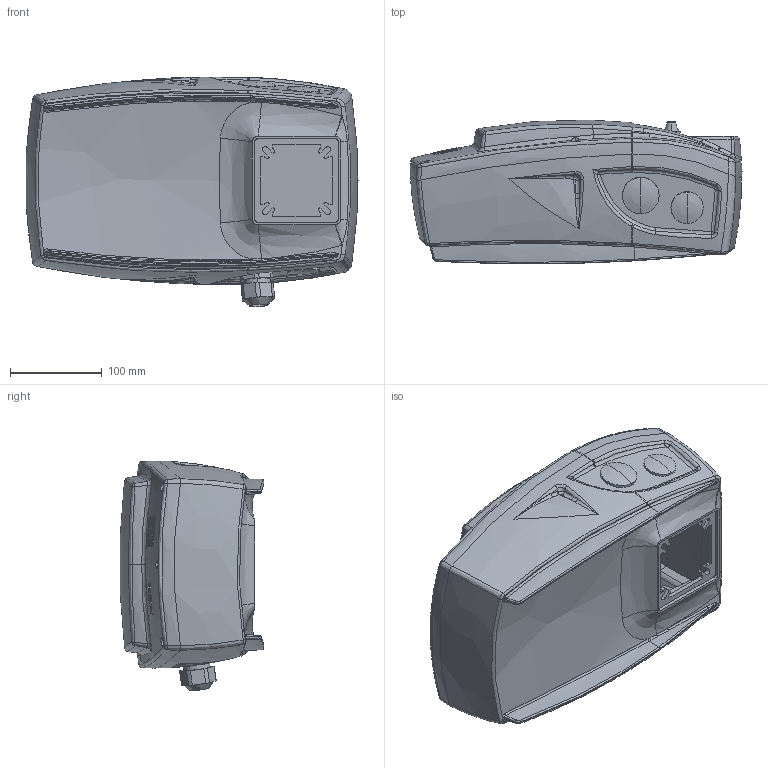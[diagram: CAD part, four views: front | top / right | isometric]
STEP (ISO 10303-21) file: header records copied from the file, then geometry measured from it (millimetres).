
FILE_DESCRIPTION((''),'2;1');
FILE_NAME('NEO11_LIGHT_ASM','2013-10-18T',('atrevisan'),(''),'PRO/ENGINEER BY PARAMETRIC TECHNOLOGY CORPORATION, 2011490','PRO/ENGINEER BY PARAMETRIC TECHNOLOGY CORPORATION, 2011490','');
FILE_SCHEMA(('CONFIG_CONTROL_DESIGN'));
Products named in the file (6): NEO11_LIGHT; NWFPANCCB_LIGHT; 3PNCMP00M32; TAPPO_M25; TAPPO_M32; NEO11_LIGHT_ASM
Assembly tree (6 placements, depth 2):
  NEO11_LIGHT_ASM
    NEO11_LIGHT
    NWFPANCCB_LIGHT
    3PNCMP00M32
    TAPPO_M25  x2
    TAPPO_M32
Bounding box: 361.02 x 156.18 x 249.88 mm (x, y, z)
Volume: 2175284.4 mm3; surface area: 570164.9 mm2
Topology: 6 solids, 6 shells, 828 faces, 2066 edges, 1290 vertices
Faces by surface type: bspline 428, plane 143, extrusion 102, cylinder 87, cone 34, torus 16, sphere 14, revolution 4
Entity records: 44207 total; most frequent: CARTESIAN_POINT 28194, ORIENTED_EDGE 4080, EDGE_CURVE 2040, DIRECTION 1998, B_SPLINE_CURVE_WITH_KNOTS 1288, VERTEX_POINT 1277, EDGE_LOOP 861, FACE_OUTER_BOUND 817
